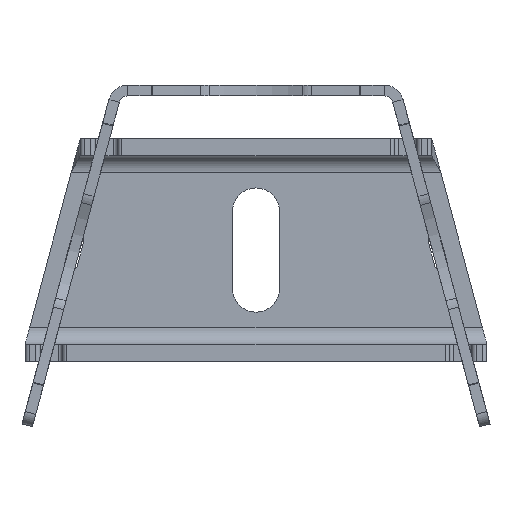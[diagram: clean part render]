
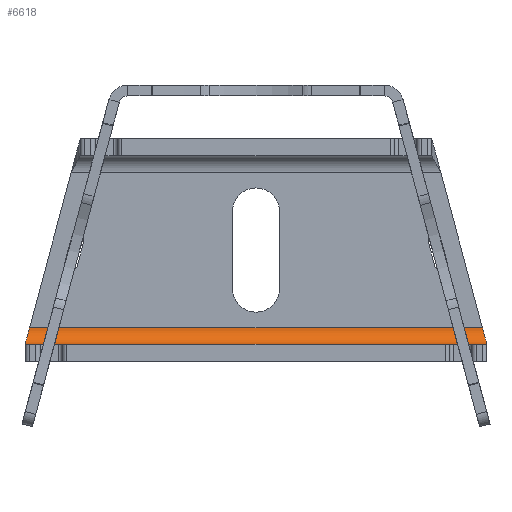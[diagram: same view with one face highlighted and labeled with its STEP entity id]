
A CAD part, front view. The second image highlights one B-rep face of the part: STEP entity #6618.
In plain terms, the highlighted cylindrical face has radius 3.9 mm (diameter 7.8 mm), a partial arc.
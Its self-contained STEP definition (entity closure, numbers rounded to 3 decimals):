
#583 = FACE_OUTER_BOUND ( 'NONE', #10667, .T. ) ;
#588 = CYLINDRICAL_SURFACE ( 'NONE', #7493, 3.9 ) ;
#806 = DIRECTION ( 'NONE',  ( -1., 0., 0. ) ) ;
#813 = CARTESIAN_POINT ( 'NONE',  ( 18.1, -3.9, 55. ) ) ;
#814 = DIRECTION ( 'NONE',  ( 0., 0., -1. ) ) ;
#1688 = VERTEX_POINT ( 'NONE', #7183 ) ;
#1702 = VERTEX_POINT ( 'NONE', #7201 ) ;
#2455 = LINE ( 'NONE', #2785, #2467 ) ;
#2467 = VECTOR ( 'NONE', #2798, 1000. ) ;
#2572 = LINE ( 'NONE', #2980, #2575 ) ;
#2575 = VECTOR ( 'NONE', #2981, 1000. ) ;
#2720 = CARTESIAN_POINT ( 'NONE',  ( 18.1, 0., -52.866 ) ) ;
#2785 = CARTESIAN_POINT ( 'NONE',  ( 18.1, 0., 55. ) ) ;
#2798 = DIRECTION ( 'NONE',  ( 0., 0., -1. ) ) ;
#2898 = CARTESIAN_POINT ( 'NONE',  ( 18.1, 0., -52.866 ) ) ;
#2899 = CARTESIAN_POINT ( 'NONE',  ( 20.385, 0., -53.478 ) ) ;
#2907 = CARTESIAN_POINT ( 'NONE',  ( 22., -1.615, -53.911 ) ) ;
#2908 = CARTESIAN_POINT ( 'NONE',  ( 22., -3.9, -53.911 ) ) ;
#2946 = CARTESIAN_POINT ( 'NONE',  ( 20.385, 0., 53.478 ) ) ;
#2951 = CARTESIAN_POINT ( 'NONE',  ( 18.1, 0., 52.866 ) ) ;
#2955 = CARTESIAN_POINT ( 'NONE',  ( 22., -1.615, 53.911 ) ) ;
#2956 = CARTESIAN_POINT ( 'NONE',  ( 22., -3.9, 53.911 ) ) ;
#2980 = CARTESIAN_POINT ( 'NONE',  ( 22., -3.9, 55. ) ) ;
#2981 = DIRECTION ( 'NONE',  ( 0., 0., -1. ) ) ;
#6460 =( BOUNDED_CURVE ( )  B_SPLINE_CURVE ( 3, ( #2898, #2899, #2907, #2908 ),
 .UNSPECIFIED., .F., .F. ) 
 B_SPLINE_CURVE_WITH_KNOTS ( ( 4, 4 ),
 ( 4.712, 6.283 ),
 .UNSPECIFIED. ) 
 CURVE ( )  GEOMETRIC_REPRESENTATION_ITEM ( )  RATIONAL_B_SPLINE_CURVE ( ( 1., 0.805, 0.805, 1. ) ) 
 REPRESENTATION_ITEM ( '' )  );
#6465 =( BOUNDED_CURVE ( )  B_SPLINE_CURVE ( 3, ( #2951, #2946, #2955, #2956 ),
 .UNSPECIFIED., .F., .F. ) 
 B_SPLINE_CURVE_WITH_KNOTS ( ( 4, 4 ),
 ( 1.571, 3.142 ),
 .UNSPECIFIED. ) 
 CURVE ( )  GEOMETRIC_REPRESENTATION_ITEM ( )  RATIONAL_B_SPLINE_CURVE ( ( 1., 0.805, 0.805, 1. ) ) 
 REPRESENTATION_ITEM ( '' )  );
#6618 = ADVANCED_FACE ( 'NONE', ( #583 ), #588, .F. ) ;
#7183 = CARTESIAN_POINT ( 'NONE',  ( 22., -3.9, 53.911 ) ) ;
#7201 = CARTESIAN_POINT ( 'NONE',  ( 22., -3.9, -53.911 ) ) ;
#7493 = AXIS2_PLACEMENT_3D ( 'NONE', #813, #814, #806 ) ;
#9340 = CARTESIAN_POINT ( 'NONE',  ( 18.1, 0., 52.866 ) ) ;
#10047 = VERTEX_POINT ( 'NONE', #2720 ) ;
#10171 = EDGE_CURVE ( 'NONE', #10872, #10047, #2455, .T. ) ;
#10216 = EDGE_CURVE ( 'NONE', #10047, #1702, #6460, .T. ) ;
#10234 = EDGE_CURVE ( 'NONE', #10872, #1688, #6465, .T. ) ;
#10244 = EDGE_CURVE ( 'NONE', #1688, #1702, #2572, .T. ) ;
#10667 = EDGE_LOOP ( 'NONE', ( #10875, #10871, #10821, #10910 ) ) ;
#10821 = ORIENTED_EDGE ( 'NONE', *, *, #10216, .T. ) ;
#10871 = ORIENTED_EDGE ( 'NONE', *, *, #10171, .T. ) ;
#10872 = VERTEX_POINT ( 'NONE', #9340 ) ;
#10875 = ORIENTED_EDGE ( 'NONE', *, *, #10234, .F. ) ;
#10910 = ORIENTED_EDGE ( 'NONE', *, *, #10244, .F. ) ;
